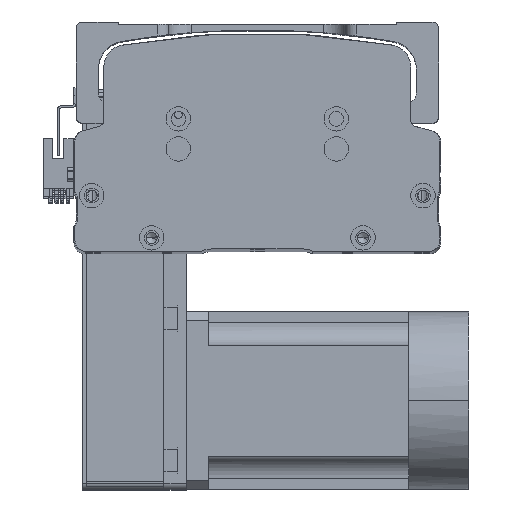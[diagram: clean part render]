
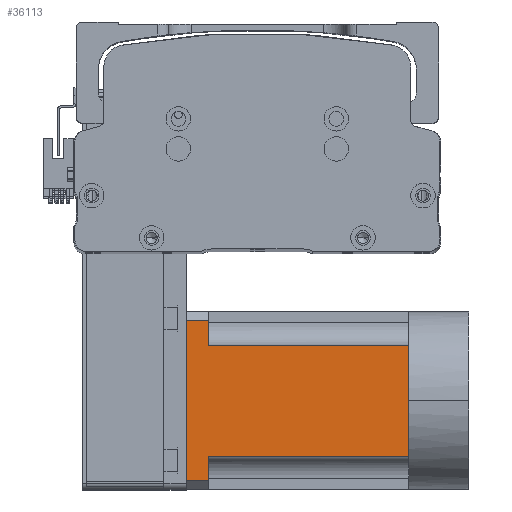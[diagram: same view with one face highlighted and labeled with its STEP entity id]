
A CAD part, top view. The second image highlights one B-rep face of the part: STEP entity #36113.
In plain terms, the highlighted planar face has unit normal (0, 0, 1) as drawn and (0, 0, -1) by its records, which use the part's own axes.
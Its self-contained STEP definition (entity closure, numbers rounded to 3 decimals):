
#551 = CARTESIAN_POINT ( 'NONE',  ( -25., 90., -40. ) ) ;
#2132 = CARTESIAN_POINT ( 'NONE',  ( 25., 90., -40. ) ) ;
#2466 = DIRECTION ( 'NONE',  ( 0., -1., 0. ) ) ;
#3267 = EDGE_CURVE ( 'NONE', #38872, #31519, #45042, .T. ) ;
#3599 = LINE ( 'NONE', #15829, #40162 ) ;
#3610 = CARTESIAN_POINT ( 'NONE',  ( -40., 0., -40. ) ) ;
#3925 = CARTESIAN_POINT ( 'NONE',  ( -40., 90., -40. ) ) ;
#4316 = LINE ( 'NONE', #23938, #40862 ) ;
#4725 = LINE ( 'NONE', #25209, #27112 ) ;
#5042 = ORIENTED_EDGE ( 'NONE', *, *, #30376, .T. ) ;
#5293 = ORIENTED_EDGE ( 'NONE', *, *, #9449, .T. ) ;
#6519 = LINE ( 'NONE', #17863, #43103 ) ;
#7106 = VECTOR ( 'NONE', #17200, 1000. ) ;
#9449 = EDGE_CURVE ( 'NONE', #13510, #18871, #4725, .T. ) ;
#9940 = DIRECTION ( 'NONE',  ( 0., 0., -1. ) ) ;
#11804 = FACE_OUTER_BOUND ( 'NONE', #21676, .T. ) ;
#12084 = CARTESIAN_POINT ( 'NONE',  ( 36., 90., -40. ) ) ;
#12171 = CARTESIAN_POINT ( 'NONE',  ( -36., -27., -40. ) ) ;
#13510 = VERTEX_POINT ( 'NONE', #46288 ) ;
#14445 = VECTOR ( 'NONE', #46881, 1000. ) ;
#14552 = PLANE ( 'NONE',  #17489 ) ;
#15829 = CARTESIAN_POINT ( 'NONE',  ( -40., 90., -40. ) ) ;
#16963 = LINE ( 'NONE', #3610, #29645 ) ;
#17200 = DIRECTION ( 'NONE',  ( 0., 1., 0. ) ) ;
#17489 = AXIS2_PLACEMENT_3D ( 'NONE', #28906, #9940, #43322 ) ;
#17863 = CARTESIAN_POINT ( 'NONE',  ( 36., -27., -40. ) ) ;
#18871 = VERTEX_POINT ( 'NONE', #551 ) ;
#19684 = VECTOR ( 'NONE', #51601, 1000. ) ;
#21676 = EDGE_LOOP ( 'NONE', ( #49264, #44240, #48349, #37781, #27430, #24560, #5293, #5042, #55800 ) ) ;
#22808 = DIRECTION ( 'NONE',  ( -1., 0., 0. ) ) ;
#23028 = CARTESIAN_POINT ( 'NONE',  ( -40., 100., -40. ) ) ;
#23938 = CARTESIAN_POINT ( 'NONE',  ( -40., 0., -40. ) ) ;
#24560 = ORIENTED_EDGE ( 'NONE', *, *, #50500, .T. ) ;
#24664 = CARTESIAN_POINT ( 'NONE',  ( -36., 100., -40. ) ) ;
#24992 = VERTEX_POINT ( 'NONE', #26818 ) ;
#25209 = CARTESIAN_POINT ( 'NONE',  ( -25., -27., -40. ) ) ;
#26818 = CARTESIAN_POINT ( 'NONE',  ( -36., 90., -40. ) ) ;
#27101 = LINE ( 'NONE', #3925, #14445 ) ;
#27112 = VECTOR ( 'NONE', #29981, 1000. ) ;
#27430 = ORIENTED_EDGE ( 'NONE', *, *, #60971, .T. ) ;
#27463 = DIRECTION ( 'NONE',  ( 0., -1., 0. ) ) ;
#28403 = VERTEX_POINT ( 'NONE', #12084 ) ;
#28906 = CARTESIAN_POINT ( 'NONE',  ( -40., -27., -40. ) ) ;
#29645 = VECTOR ( 'NONE', #22808, 1000. ) ;
#29981 = DIRECTION ( 'NONE',  ( 0., 1., 0. ) ) ;
#30372 = VERTEX_POINT ( 'NONE', #48969 ) ;
#30376 = EDGE_CURVE ( 'NONE', #18871, #24992, #3599, .T. ) ;
#30508 = EDGE_CURVE ( 'NONE', #35042, #31779, #35701, .T. ) ;
#30590 = EDGE_CURVE ( 'NONE', #38872, #28403, #6519, .T. ) ;
#31519 = VERTEX_POINT ( 'NONE', #24664 ) ;
#31779 = VERTEX_POINT ( 'NONE', #36072 ) ;
#35042 = VERTEX_POINT ( 'NONE', #2132 ) ;
#35701 = LINE ( 'NONE', #35841, #49860 ) ;
#35841 = CARTESIAN_POINT ( 'NONE',  ( 25., -27., -40. ) ) ;
#36072 = CARTESIAN_POINT ( 'NONE',  ( 25., 0., -40. ) ) ;
#36113 = ADVANCED_FACE ( 'NONE', ( #11804 ), #14552, .T. ) ;
#37781 = ORIENTED_EDGE ( 'NONE', *, *, #30508, .T. ) ;
#38872 = VERTEX_POINT ( 'NONE', #49857 ) ;
#40162 = VECTOR ( 'NONE', #53987, 1000. ) ;
#40862 = VECTOR ( 'NONE', #52703, 1000. ) ;
#43103 = VECTOR ( 'NONE', #27463, 1000. ) ;
#43322 = DIRECTION ( 'NONE',  ( -1., 0., 0. ) ) ;
#44240 = ORIENTED_EDGE ( 'NONE', *, *, #30590, .T. ) ;
#45042 = LINE ( 'NONE', #23028, #19684 ) ;
#46288 = CARTESIAN_POINT ( 'NONE',  ( -25., 0., -40. ) ) ;
#46881 = DIRECTION ( 'NONE',  ( -1., 0., 0. ) ) ;
#48349 = ORIENTED_EDGE ( 'NONE', *, *, #57872, .T. ) ;
#48969 = CARTESIAN_POINT ( 'NONE',  ( 0., 0., -40. ) ) ;
#49264 = ORIENTED_EDGE ( 'NONE', *, *, #3267, .F. ) ;
#49857 = CARTESIAN_POINT ( 'NONE',  ( 36., 100., -40. ) ) ;
#49860 = VECTOR ( 'NONE', #2466, 1000. ) ;
#50500 = EDGE_CURVE ( 'NONE', #30372, #13510, #16963, .T. ) ;
#51290 = EDGE_CURVE ( 'NONE', #24992, #31519, #56372, .T. ) ;
#51601 = DIRECTION ( 'NONE',  ( -1., 0., 0. ) ) ;
#52703 = DIRECTION ( 'NONE',  ( -1., 0., 0. ) ) ;
#53987 = DIRECTION ( 'NONE',  ( -1., 0., 0. ) ) ;
#55800 = ORIENTED_EDGE ( 'NONE', *, *, #51290, .T. ) ;
#56372 = LINE ( 'NONE', #12171, #7106 ) ;
#57872 = EDGE_CURVE ( 'NONE', #28403, #35042, #27101, .T. ) ;
#60971 = EDGE_CURVE ( 'NONE', #31779, #30372, #4316, .T. ) ;
